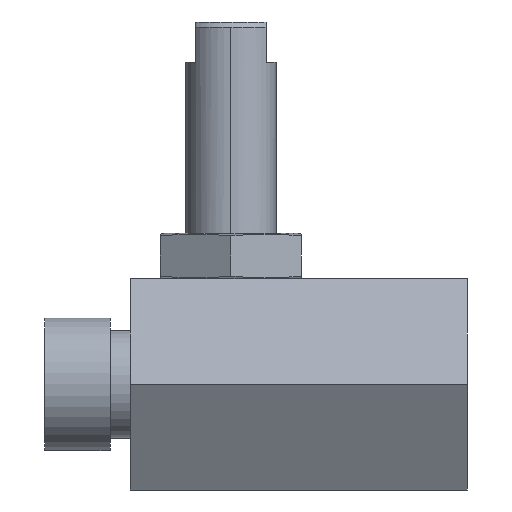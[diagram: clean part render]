
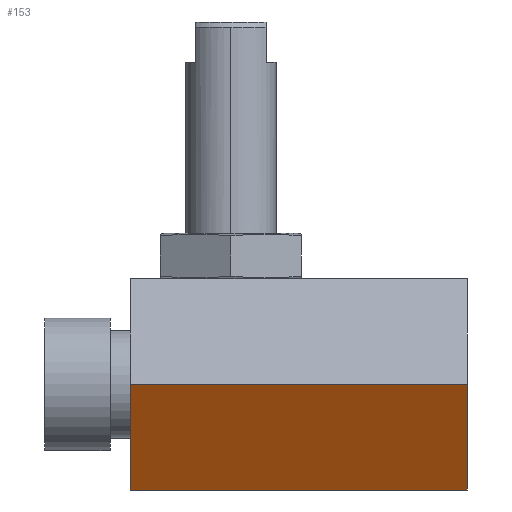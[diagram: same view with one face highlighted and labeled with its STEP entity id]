
A CAD part, left-side view. The second image highlights one B-rep face of the part: STEP entity #153.
In plain terms, the highlighted planar face has unit normal (-0.866, 0, -0.5).
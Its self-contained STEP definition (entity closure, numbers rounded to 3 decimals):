
#153 = ADVANCED_FACE ( 'NONE', ( #1094 ), #1866, .F. ) ;
#841 = VERTEX_POINT ( 'NONE', #2160 ) ;
#862 = VERTEX_POINT ( 'NONE', #2139 ) ;
#898 = VERTEX_POINT ( 'NONE', #2096 ) ;
#929 = VERTEX_POINT ( 'NONE', #2064 ) ;
#1034 = VECTOR ( 'NONE', #1841, 1000. ) ;
#1038 = VECTOR ( 'NONE', #1849, 1000. ) ;
#1039 = VECTOR ( 'NONE', #1852, 1000. ) ;
#1040 = LINE ( 'NONE', #1853, #1039 ) ;
#1041 = LINE ( 'NONE', #1847, #1034 ) ;
#1045 = VECTOR ( 'NONE', #1861, 1000. ) ;
#1046 = LINE ( 'NONE', #1862, #1045 ) ;
#1049 = LINE ( 'NONE', #1857, #1038 ) ;
#1094 = FACE_OUTER_BOUND ( 'NONE', #1535, .T. ) ;
#1442 = ORIENTED_EDGE ( 'NONE', *, *, #3202, .T. ) ;
#1443 = ORIENTED_EDGE ( 'NONE', *, *, #3203, .F. ) ;
#1444 = ORIENTED_EDGE ( 'NONE', *, *, #3199, .F. ) ;
#1445 = ORIENTED_EDGE ( 'NONE', *, *, #3205, .T. ) ;
#1535 = EDGE_LOOP ( 'NONE', ( #1442, #1443, #1444, #1445 ) ) ;
#1841 = DIRECTION ( 'NONE',  ( 0., -1., 0. ) ) ;
#1847 = CARTESIAN_POINT ( 'NONE',  ( -6.062, 33.5, -10.5 ) ) ;
#1848 = DIRECTION ( 'NONE',  ( 0.5, 0., -0.866 ) ) ;
#1849 = DIRECTION ( 'NONE',  ( 0., -1., 0. ) ) ;
#1850 = DIRECTION ( 'NONE',  ( 0.866, 0., 0.5 ) ) ;
#1852 = DIRECTION ( 'NONE',  ( -0.5, 0., 0.866 ) ) ;
#1853 = CARTESIAN_POINT ( 'NONE',  ( -6.062, 0., -10.5 ) ) ;
#1857 = CARTESIAN_POINT ( 'NONE',  ( -12.124, 33.5, 0. ) ) ;
#1861 = DIRECTION ( 'NONE',  ( -0.5, 0., 0.866 ) ) ;
#1862 = CARTESIAN_POINT ( 'NONE',  ( -6.062, 33.5, -10.5 ) ) ;
#1866 = PLANE ( 'NONE',  #3533 ) ;
#1910 = CARTESIAN_POINT ( 'NONE',  ( -6.062, 33.5, -10.5 ) ) ;
#2064 = CARTESIAN_POINT ( 'NONE',  ( -12.124, 33.5, 0. ) ) ;
#2096 = CARTESIAN_POINT ( 'NONE',  ( -6.062, 0., -10.5 ) ) ;
#2139 = CARTESIAN_POINT ( 'NONE',  ( -6.062, 33.5, -10.5 ) ) ;
#2160 = CARTESIAN_POINT ( 'NONE',  ( -12.124, 0., 0. ) ) ;
#3199 = EDGE_CURVE ( 'NONE', #862, #929, #1046, .T. ) ;
#3202 = EDGE_CURVE ( 'NONE', #898, #841, #1040, .T. ) ;
#3203 = EDGE_CURVE ( 'NONE', #929, #841, #1049, .T. ) ;
#3205 = EDGE_CURVE ( 'NONE', #862, #898, #1041, .T. ) ;
#3533 = AXIS2_PLACEMENT_3D ( 'NONE', #1910, #1850, #1848 ) ;
